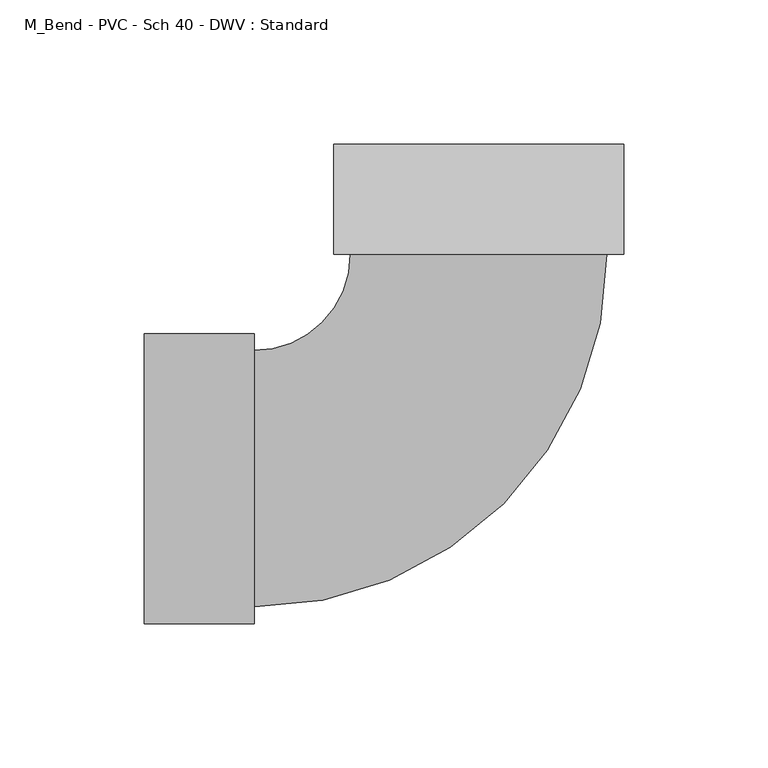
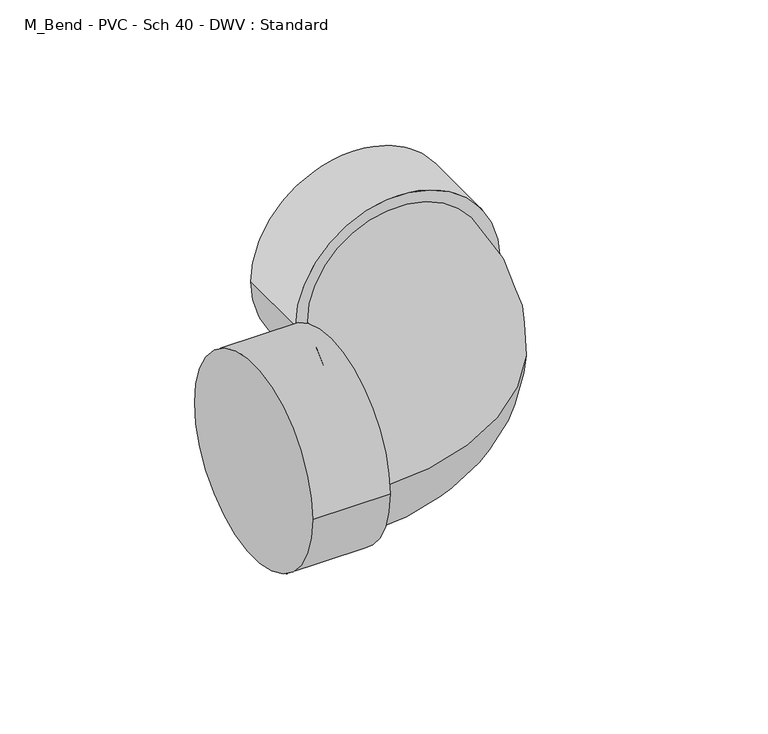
"""IFC4 building model written with IfcOpenShell, lengths in millimetres: pipe fitting geometry, M_Bend - PVC - Sch 40 - DWV : Standard."""

from ifc_helpers import new_model, si_unit, point, frame, origin, place, context, project, spatial, circle_curve, ellipse_curve, trimmed, source, transform, mapped, element, save
from ifc_brep_helpers import plane_surface, cylinder_surface, revolved_surface, advanced_brep


def m_bend_pvc_sch_40_dwv_standard_1be8e2f3(model_context):
    return source(origin(), model_context, "Body", "AdvancedBrep", [
        advanced_brep(
        [(-115.9002, -50.2666, 0.0), (-115.9002, 50.2666, 0.0), (-77.8002, -50.2666, 0.0), (-77.8002, 50.2666, 0.0), (-77.8002, -44.45, 0.0), (-77.8002, 44.45, 0.0), (-44.4516011, 77.7992852, 0.0), (44.4483989, 77.8011147, 0.0), (50.2649989, 77.8012344, 0.0), (-50.2682011, 77.7991655, 0.0), (50.2642148, 115.9012344, 0.0), (-50.2689851, 115.8991655, 0.0)],
        [
            (0, 1, circle_curve(frame((-115.9002, 0.0, 0.0), z_axis=(-1.0, 0.0, 0.0), x_axis=(0.0, 1.0, 0.0)), 50.2666)),
            (1, 0, circle_curve(frame((-115.9002, 0.0, 0.0), z_axis=(-1.0, 0.0, 0.0), x_axis=(0.0, 1.0, 0.0)), 50.2666)),
            (2, 3, circle_curve(frame((-77.8002, 0.0, 0.0), z_axis=(1.0, 0.0, 0.0), x_axis=(0.0, 1.0, 0.0)), 50.2666)),
            (3, 2, circle_curve(frame((-77.8002, 0.0, 0.0), z_axis=(1.0, 0.0, 0.0), x_axis=(0.0, 1.0, 0.0)), 50.2666)),
            (4, 5, circle_curve(frame((-77.8002, 0.0, 0.0), z_axis=(-1.0, 0.0, 0.0), x_axis=(0.0, 1.0, 0.0)), 44.45)),
            (5, 4, circle_curve(frame((-77.8002, 0.0, 0.0), z_axis=(-1.0, 0.0, 0.0), x_axis=(0.0, 1.0, 0.0)), 44.45)),
            (0, 2),
            (3, 1),
            (6, 5, circle_curve(frame((-77.8002, 77.7985989, 0.0), z_axis=(0.0, 0.0, -1.0), x_axis=(0.0, -1.0, 0.0)), 33.3485989)),
            (4, 7, circle_curve(frame((-77.8002, 77.7985989, 0.0), z_axis=(0.0, 0.0, 1.0), x_axis=(0.0, -1.0, 0.0)), 122.2485989)),
            (7, 6, circle_curve(frame((-0.0016011, 77.8002, 0.0), z_axis=(2.057943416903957e-05, -0.9999999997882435, 0.0), x_axis=(-0.9999999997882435, -2.057943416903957e-05, 0.0)), 44.45)),
            (6, 7, circle_curve(frame((-0.0016011, 77.8002, 0.0), z_axis=(2.057943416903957e-05, -0.9999999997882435, 0.0), x_axis=(-0.9999999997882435, -2.057943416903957e-05, 0.0)), 44.45)),
            (8, 9, circle_curve(frame((-0.0016011, 77.8002, 0.0), z_axis=(2.0579434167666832e-05, -0.9999999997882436, 0.0), x_axis=(-0.9999999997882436, -2.0579434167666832e-05, 0.0)), 50.2666)),
            (9, 8, circle_curve(frame((-0.0016011, 77.8002, 0.0), z_axis=(2.0579434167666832e-05, -0.9999999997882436, 0.0), x_axis=(-0.9999999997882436, -2.0579434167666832e-05, 0.0)), 50.2666)),
            (10, 11, circle_curve(frame((-0.0023852, 115.9002, 0.0), z_axis=(-2.0579434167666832e-05, 0.9999999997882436, 0.0), x_axis=(-0.9999999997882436, -2.0579434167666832e-05, 0.0)), 50.2666)),
            (11, 10, circle_curve(frame((-0.0023852, 115.9002, 0.0), z_axis=(-2.0579434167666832e-05, 0.9999999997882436, 0.0), x_axis=(-0.9999999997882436, -2.0579434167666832e-05, 0.0)), 50.2666)),
            (8, 10),
            (11, 9),
        ],
        [
            plane_surface(frame((-115.9002, 0.0, 0.0), z_axis=(-1.0, 0.0, 0.0), x_axis=(0.0, 0.0, 1.0))),
            plane_surface(frame((-77.8002, 0.0, 0.0), z_axis=(1.0, 0.0, 0.0), x_axis=(0.0, 0.0, 1.0))),
            cylinder_surface(frame((-115.9002, 0.0, 0.0), z_axis=(-1.0, 0.0, 0.0), x_axis=(0.0, 1.0, 0.0)), 50.2666),
            revolved_surface(trimmed(ellipse_curve(frame((-77.8002, 0.0, 0.0), z_axis=(-1.0, 0.0, 0.0), x_axis=(0.0, 1.0, 0.0)), 44.45, 44.45), [point((-77.8002, -44.45, 0.0))], [point((-77.8002, 44.45, 0.0))], True, "CARTESIAN"), (-77.8002, 77.7985989, 0.0), (0.0, 0.0, 1.0)),
            revolved_surface(trimmed(ellipse_curve(frame((-77.8002, 0.0, 0.0), z_axis=(-1.0, 0.0, 0.0), x_axis=(0.0, 1.0, 0.0)), 44.45, 44.45), [point((-77.8002, 44.45, 0.0))], [point((-77.8002, -44.45, 0.0))], True, "CARTESIAN"), (-77.8002, 77.7985989, 0.0), (0.0, 0.0, 1.0)),
            plane_surface(frame((-0.0016011, 77.8002, 0.0), z_axis=(2.0579434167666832e-05, -0.9999999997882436, 0.0), x_axis=(0.0, 0.0, 1.0))),
            plane_surface(frame((-0.0023852, 115.9002, 0.0), z_axis=(-2.0579434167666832e-05, 0.9999999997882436, 0.0), x_axis=(0.0, 0.0, 1.0))),
            cylinder_surface(frame((-0.0016011, 77.8002, 0.0), z_axis=(2.0579434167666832e-05, -0.9999999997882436, 0.0), x_axis=(-0.9999999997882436, -2.0579434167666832e-05, 0.0)), 50.2666),
        ],
        [
            (0, [[1, 2]]),
            (1, [[3, 4], [5, 6]]),
            (2, [[-1, 7, -4, 8]]),
            (2, [[-2, -8, -3, -7]]),
            (3, [[9, -5, 10, 11]]),
            (4, [[-9, 12, -10, -6]]),
            (5, [[13, 14], [-11, -12]]),
            (6, [[15, 16]]),
            (7, [[-13, 17, -16, 18]]),
            (7, [[-14, -18, -15, -17]]),
        ],
    ),
    ])


if __name__ == "__main__":
    model = new_model("IFC4")
    model_context = context("Model", 3, world=origin())
    ifc_project = project(units=[si_unit("LENGTHUNIT", "METRE", prefix="MILLI")], contexts=[model_context])
    site = spatial("IfcSite", under=ifc_project)
    building = spatial("IfcBuilding", under=site)
    placement = place(None, origin())
    m_bend_pvc_sch_40_dwv_standard_shape = m_bend_pvc_sch_40_dwv_standard_1be8e2f3(model_context)
    element("IfcPipeFitting", 1, ObjectType="M_Bend - PVC - Sch 40 - DWV : Standard", at=placement, inside=building, context=model_context, shape_type="MappedRepresentation", body=[
        mapped(m_bend_pvc_sch_40_dwv_standard_shape, transform((0.0, 0.0, 0.0), x_axis=(1.0, 0.0, 0.0), y_axis=(0.0, 1.0, 0.0), z_axis=(0.0, 0.0, 1.0))),
    ])
    save(model, "model.ifc")
